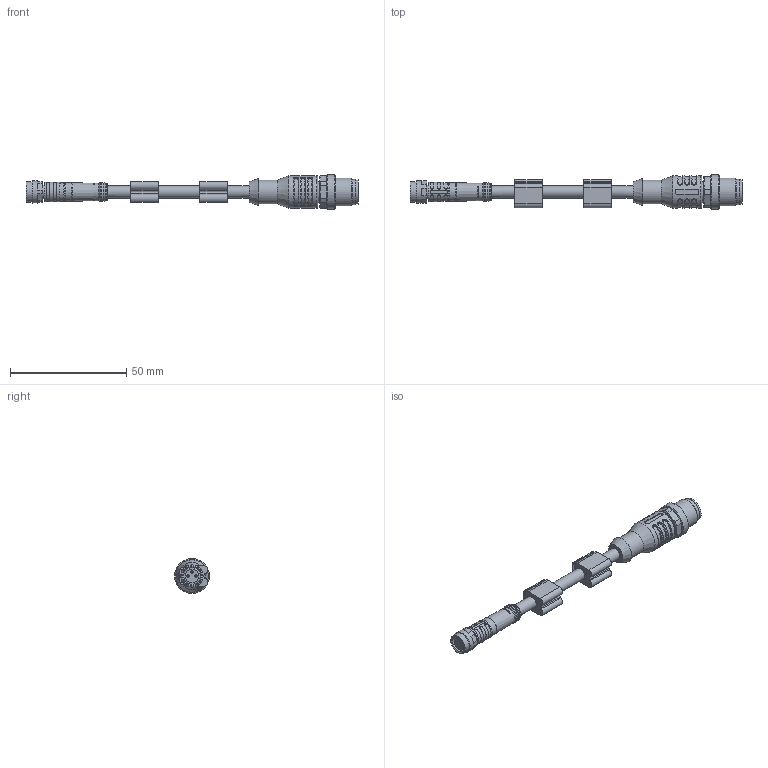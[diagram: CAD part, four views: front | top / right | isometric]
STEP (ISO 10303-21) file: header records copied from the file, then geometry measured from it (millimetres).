
FILE_DESCRIPTION(/* description */ (''),/* implementation_level */ '2;1');
FILE_NAME(/* name */ 'C:\#Vault-WorkDir\Konstruktions-Dokumente\Projekte\Zubehör allgemein\153-13649_K3_L4-xM-PUR.stp',/* time_stamp */ '2019-11-06T12:30:04+01:00',/* author */ ('SensoPart'),/* organization */ ('SensoPart'),/* preprocessor_version */ 'ST-DEVELOPER v17',/* originating_system */ 'Autodesk Inventor 2018',/* authorisation */ '');
FILE_SCHEMA (('AUTOMOTIVE_DESIGN { 1 0 10303 214 3 1 1 }'));
Length unit declared in the file: millimetre
Products named in the file (1): GH-ENG-0030468
Bounding box: 143.09 x 15 x 15 mm (x, y, z)
Volume: 9795.8 mm3; surface area: 6186 mm2
Topology: 1 solids, 1 shells, 455 faces, 1204 edges, 790 vertices
Faces by surface type: plane 169, cylinder 164, bspline 57, torus 38, cone 23, sphere 4
Full cylindrical faces by diameter (mm): 1 x4, 1.1 x3, 5.2 x3, 5.7 x1, 5.9 x1, 7.2 x1, 7.5 x4, 8 x1, 8.3 x1, 8.4 x1, 8.7 x1, 8.8 x1, 9.6 x1, 10.2 x1, 10.5 x1, 10.8 x1, 12 x1, 14 x1, 15 x1
Entity records: 20016 total; most frequent: CARTESIAN_POINT 8263, ORIENTED_EDGE 2400, DIRECTION 2371, EDGE_CURVE 1200, AXIS2_PLACEMENT_3D 933, VERTEX_POINT 790, CIRCLE 519, LINE 505
